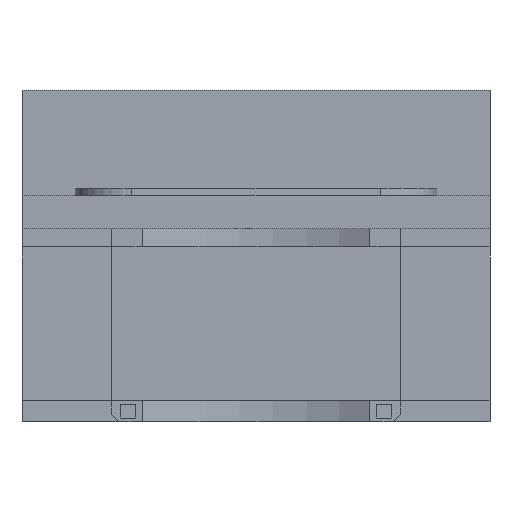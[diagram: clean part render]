
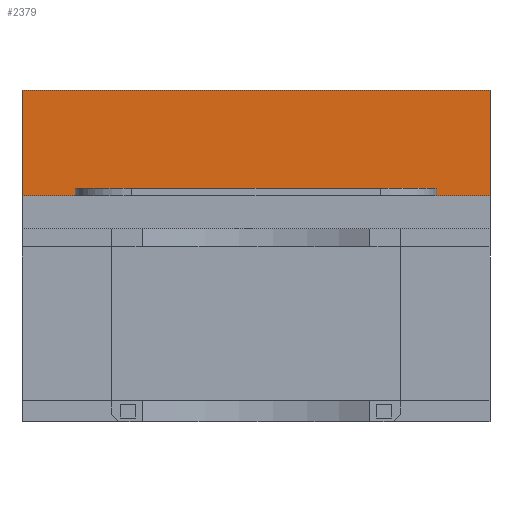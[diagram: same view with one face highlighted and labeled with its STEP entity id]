
A CAD part, front view. The second image highlights one B-rep face of the part: STEP entity #2379.
In plain terms, the highlighted planar face has unit normal (0, -1, 0).
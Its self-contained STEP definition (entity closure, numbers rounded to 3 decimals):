
#44 = PLANE('',#45);
#45 = AXIS2_PLACEMENT_3D('',#46,#47,#48);
#46 = CARTESIAN_POINT('',(31.05,-20.869,23.2));
#47 = DIRECTION('',(1.,0.,-0.));
#48 = DIRECTION('',(0.,0.,1.));
#324 = PLANE('',#325);
#325 = AXIS2_PLACEMENT_3D('',#326,#327,#328);
#326 = CARTESIAN_POINT('',(-31.05,-21.5,25.6));
#327 = DIRECTION('',(1.,0.,-0.));
#328 = DIRECTION('',(0.,0.,1.));
#688 = VERTEX_POINT('',#689);
#689 = CARTESIAN_POINT('',(31.05,24.,44.));
#703 = PLANE('',#704);
#704 = AXIS2_PLACEMENT_3D('',#705,#706,#707);
#705 = CARTESIAN_POINT('',(-31.05,24.,44.));
#706 = DIRECTION('',(0.,0.,1.));
#707 = DIRECTION('',(1.,0.,-0.));
#715 = EDGE_CURVE('',#716,#688,#718,.T.);
#716 = VERTEX_POINT('',#717);
#717 = CARTESIAN_POINT('',(31.05,24.,30.));
#718 = SURFACE_CURVE('',#719,(#723,#730),.PCURVE_S1.);
#719 = LINE('',#720,#721);
#720 = CARTESIAN_POINT('',(31.05,24.,29.8));
#721 = VECTOR('',#722,1.);
#722 = DIRECTION('',(0.,0.,1.));
#723 = PCURVE('',#44,#724);
#724 = DEFINITIONAL_REPRESENTATION('',(#725),#729);
#725 = LINE('',#726,#727);
#726 = CARTESIAN_POINT('',(6.6,-44.869));
#727 = VECTOR('',#728,1.);
#728 = DIRECTION('',(1.,0.));
#729 = ( GEOMETRIC_REPRESENTATION_CONTEXT(2) 
PARAMETRIC_REPRESENTATION_CONTEXT() REPRESENTATION_CONTEXT('2D SPACE',''
  ) );
#730 = PCURVE('',#731,#736);
#731 = PLANE('',#732);
#732 = AXIS2_PLACEMENT_3D('',#733,#734,#735);
#733 = CARTESIAN_POINT('',(-31.05,24.,29.8));
#734 = DIRECTION('',(-0.,1.,0.));
#735 = DIRECTION('',(0.,0.,1.));
#736 = DEFINITIONAL_REPRESENTATION('',(#737),#741);
#737 = LINE('',#738,#739);
#738 = CARTESIAN_POINT('',(0.,62.1));
#739 = VECTOR('',#740,1.);
#740 = DIRECTION('',(1.,0.));
#741 = ( GEOMETRIC_REPRESENTATION_CONTEXT(2) 
PARAMETRIC_REPRESENTATION_CONTEXT() REPRESENTATION_CONTEXT('2D SPACE',''
  ) );
#759 = PLANE('',#760);
#760 = AXIS2_PLACEMENT_3D('',#761,#762,#763);
#761 = CARTESIAN_POINT('',(-31.05,-21.5,30.));
#762 = DIRECTION('',(0.,0.,1.));
#763 = DIRECTION('',(1.,0.,-0.));
#1503 = VERTEX_POINT('',#1504);
#1504 = CARTESIAN_POINT('',(-31.05,24.,30.));
#1753 = VERTEX_POINT('',#1754);
#1754 = CARTESIAN_POINT('',(-31.05,24.,44.));
#1775 = EDGE_CURVE('',#1503,#1753,#1776,.T.);
#1776 = SURFACE_CURVE('',#1777,(#1781,#1788),.PCURVE_S1.);
#1777 = LINE('',#1778,#1779);
#1778 = CARTESIAN_POINT('',(-31.05,24.,29.8));
#1779 = VECTOR('',#1780,1.);
#1780 = DIRECTION('',(0.,0.,1.));
#1781 = PCURVE('',#324,#1782);
#1782 = DEFINITIONAL_REPRESENTATION('',(#1783),#1787);
#1783 = LINE('',#1784,#1785);
#1784 = CARTESIAN_POINT('',(4.2,-45.5));
#1785 = VECTOR('',#1786,1.);
#1786 = DIRECTION('',(1.,0.));
#1787 = ( GEOMETRIC_REPRESENTATION_CONTEXT(2) 
PARAMETRIC_REPRESENTATION_CONTEXT() REPRESENTATION_CONTEXT('2D SPACE',''
  ) );
#1788 = PCURVE('',#731,#1789);
#1789 = DEFINITIONAL_REPRESENTATION('',(#1790),#1794);
#1790 = LINE('',#1791,#1792);
#1791 = CARTESIAN_POINT('',(0.,0.));
#1792 = VECTOR('',#1793,1.);
#1793 = DIRECTION('',(1.,0.));
#1794 = ( GEOMETRIC_REPRESENTATION_CONTEXT(2) 
PARAMETRIC_REPRESENTATION_CONTEXT() REPRESENTATION_CONTEXT('2D SPACE',''
  ) );
#2357 = EDGE_CURVE('',#1753,#688,#2358,.T.);
#2358 = SURFACE_CURVE('',#2359,(#2363,#2370),.PCURVE_S1.);
#2359 = LINE('',#2360,#2361);
#2360 = CARTESIAN_POINT('',(-31.05,24.,44.));
#2361 = VECTOR('',#2362,1.);
#2362 = DIRECTION('',(1.,0.,-0.));
#2363 = PCURVE('',#703,#2364);
#2364 = DEFINITIONAL_REPRESENTATION('',(#2365),#2369);
#2365 = LINE('',#2366,#2367);
#2366 = CARTESIAN_POINT('',(0.,0.));
#2367 = VECTOR('',#2368,1.);
#2368 = DIRECTION('',(1.,0.));
#2369 = ( GEOMETRIC_REPRESENTATION_CONTEXT(2) 
PARAMETRIC_REPRESENTATION_CONTEXT() REPRESENTATION_CONTEXT('2D SPACE',''
  ) );
#2370 = PCURVE('',#731,#2371);
#2371 = DEFINITIONAL_REPRESENTATION('',(#2372),#2376);
#2372 = LINE('',#2373,#2374);
#2373 = CARTESIAN_POINT('',(14.2,0.));
#2374 = VECTOR('',#2375,1.);
#2375 = DIRECTION('',(0.,1.));
#2376 = ( GEOMETRIC_REPRESENTATION_CONTEXT(2) 
PARAMETRIC_REPRESENTATION_CONTEXT() REPRESENTATION_CONTEXT('2D SPACE',''
  ) );
#2379 = ADVANCED_FACE('',(#2380),#731,.F.);
#2380 = FACE_BOUND('',#2381,.F.);
#2381 = EDGE_LOOP('',(#2382,#2383,#2404,#2405));
#2382 = ORIENTED_EDGE('',*,*,#715,.F.);
#2383 = ORIENTED_EDGE('',*,*,#2384,.T.);
#2384 = EDGE_CURVE('',#716,#1503,#2385,.T.);
#2385 = SURFACE_CURVE('',#2386,(#2390,#2397),.PCURVE_S1.);
#2386 = LINE('',#2387,#2388);
#2387 = CARTESIAN_POINT('',(31.05,24.,30.));
#2388 = VECTOR('',#2389,1.);
#2389 = DIRECTION('',(-1.,0.,0.));
#2390 = PCURVE('',#731,#2391);
#2391 = DEFINITIONAL_REPRESENTATION('',(#2392),#2396);
#2392 = LINE('',#2393,#2394);
#2393 = CARTESIAN_POINT('',(0.2,62.1));
#2394 = VECTOR('',#2395,1.);
#2395 = DIRECTION('',(0.,-1.));
#2396 = ( GEOMETRIC_REPRESENTATION_CONTEXT(2) 
PARAMETRIC_REPRESENTATION_CONTEXT() REPRESENTATION_CONTEXT('2D SPACE',''
  ) );
#2397 = PCURVE('',#759,#2398);
#2398 = DEFINITIONAL_REPRESENTATION('',(#2399),#2403);
#2399 = LINE('',#2400,#2401);
#2400 = CARTESIAN_POINT('',(62.1,45.5));
#2401 = VECTOR('',#2402,1.);
#2402 = DIRECTION('',(-1.,0.));
#2403 = ( GEOMETRIC_REPRESENTATION_CONTEXT(2) 
PARAMETRIC_REPRESENTATION_CONTEXT() REPRESENTATION_CONTEXT('2D SPACE',''
  ) );
#2404 = ORIENTED_EDGE('',*,*,#1775,.T.);
#2405 = ORIENTED_EDGE('',*,*,#2357,.T.);
